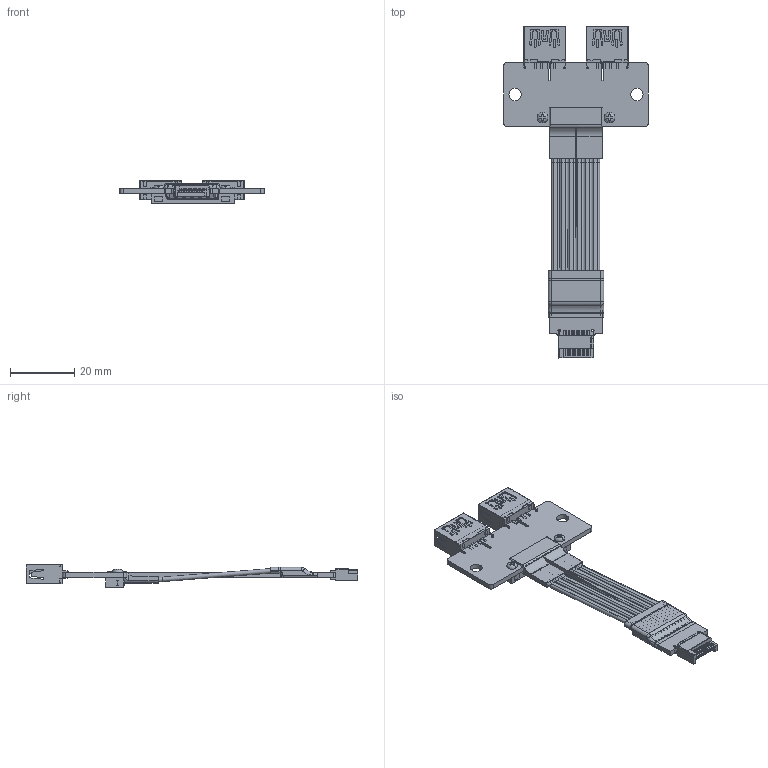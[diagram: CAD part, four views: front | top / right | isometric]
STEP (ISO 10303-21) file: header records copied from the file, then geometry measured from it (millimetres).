
FILE_DESCRIPTION(('Open CASCADE Model'),'2;1');
FILE_NAME('Open CASCADE Shape Model','2023-07-17T16:22:11',('Author'),( 'Open CASCADE'),'Open CASCADE STEP processor 6.8','Open CASCADE 6.8' ,'Unknown');
FILE_SCHEMA(('AUTOMOTIVE_DESIGN { 1 0 10303 214 1 1 1 1 }'));
Length unit declared in the file: millimetre
Products named in the file (97): PCB; Board; Open CASCADE STEP translator 6.8 3.1.1; Designator4; USB_短款20211224（5）; Designator5; Designator13; KEY-B__20230518(2); Free-Models; DP5A-DP5B_S__20210808; Free-Models.step; DP7A-8B_____(1).step; DP7A-8B_____(1)-21.step; DP7A-8B_____(1)-22.step; DP7A-8B_____(1)-23.step; DP7A-8B_____(1)-24.step; DP7A-8B_____(1)-25.step; DP7A-8B_____(1)-26.step; DP7A-8B_____(1)-27.step; DP7A-8B_____(1)-28.step; DP7A-8B_____(1)-29.step; DP7A-8B_____(1)-30.step; DP7A-8B_____(1)-31.step; DP7A-8B_____(1)-32.step; DP7A-8B_____(1)-33.step; DP7A-8B_____(1)-34.step; DP7A-8B_____(1)-35.step; DP7A-8B_____(1)-36.step; DP7A-8B_____(1)-37.step; DP7A-8B_____(1)-38.step; DP7A-8B_____(1)-39.step; DP7A-8B_____(1)-40.step; DP7A-8B_____(1)-41.step; DP7A-8B_____(1)-42.step; DP7A-8B_____(1)-43.step; DP7A-8B_____(1)-44.step; DP7A-8B_____(1)-45.step; DP7A-8B_____(1)-46.step; DP7A-8B_____(1)-47.step; DP7A-8B_____(1)-48.step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
Assembly tree (99 placements, depth 5):
  PCB
    Board
      Open CASCADE STEP translator 6.8 3.1.1
    Designator4
      USB_短款20211224（5）
    Designator5
      USB_短款20211224（5）
    Designator13
      KEY-B__20230518(2)
    Free-Models
      DP5A-DP5B_S__20210808
        Free-Models.step
          DP7A-8B_____(1).step
          DP7A-8B_____(1)-21.step
          DP7A-8B_____(1)-22.step
          DP7A-8B_____(1)-23.step
          DP7A-8B_____(1)-24.step
          DP7A-8B_____(1)-25.step
          DP7A-8B_____(1)-26.step
          DP7A-8B_____(1)-27.step
          DP7A-8B_____(1)-28.step
          DP7A-8B_____(1)-29.step
          DP7A-8B_____(1)-30.step
          DP7A-8B_____(1)-31.step
          DP7A-8B_____(1)-32.step
          DP7A-8B_____(1)-33.step
          DP7A-8B_____(1)-34.step
          DP7A-8B_____(1)-35.step
          DP7A-8B_____(1)-36.step
          DP7A-8B_____(1)-37.step
          DP7A-8B_____(1)-38.step
          DP7A-8B_____(1)-39.step
          DP7A-8B_____(1)-40.step
          DP7A-8B_____(1)-41.step
          DP7A-8B_____(1)-42.step
          DP7A-8B_____(1)-43.step
          DP7A-8B_____(1)-44.step
          DP7A-8B_____(1)-45.step
          DP7A-8B_____(1)-46.step
          DP7A-8B_____(1)-47.step
          DP7A-8B_____(1)-48.step
          DP7A-8B_____(1)-49.step
          DP7A-8B_____(1)-50.step
          DP7A-8B_____(1)-51.step
          DP7A-8B_____(1)-52.step
          DP7A-8B_____(1)-53.step
          DP7A-8B_____(1)-54.step
          DP7A-8B_____(1)-55.step
          DP7A-8B_____(1)-56.step
          DP7A-8B_____(1)-57.step
          DP7A-8B_____(1)-58.step
          DP7A-8B_____(1)-59.step
          DP7A-8B_____(1)-60.step
          DP7A-8B_____(1)-61.step
          DP7A-8B_____(1)-62.step
          DP7A-8B_____(1)-63.step
          DP7A-8B_____(1)-64.step
          DP7A-8B_____(1)-65.step
          DP7A-8B_____(1)-66.step
          DP7A-8B_____(1)-67.step
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Bounding box: 45.01 x 103.48 x 7.11 mm (x, y, z)
Volume: 4055.4 mm3; surface area: 18858.1 mm2
Topology: 168 solids, 168 shells, 3311 faces, 8216 edges, 5255 vertices
Faces by surface type: plane 1585, cylinder 1298, torus 368, cone 24, bspline 24, revolution 12
Full cylindrical faces by diameter (mm): 0.58 x48, 0.8 x2, 2.2 x2, 3.8 x2
Entity records: 89841 total; most frequent: CARTESIAN_POINT 14974, DIRECTION 14638, ORIENTED_EDGE 13054, EDGE_CURVE 6527, AXIS2_PLACEMENT_3D 5515, VERTEX_POINT 4135, LINE 3598, VECTOR 3598
